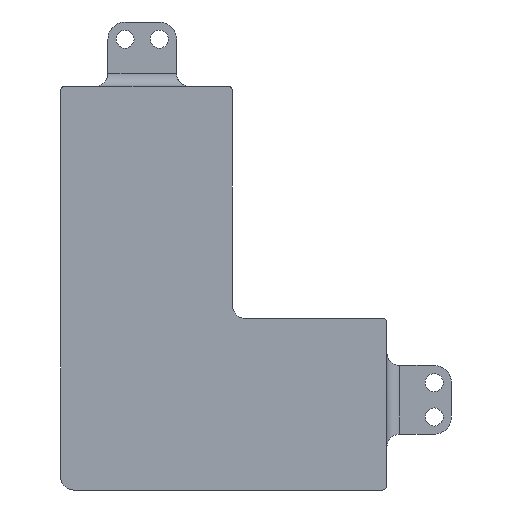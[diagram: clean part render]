
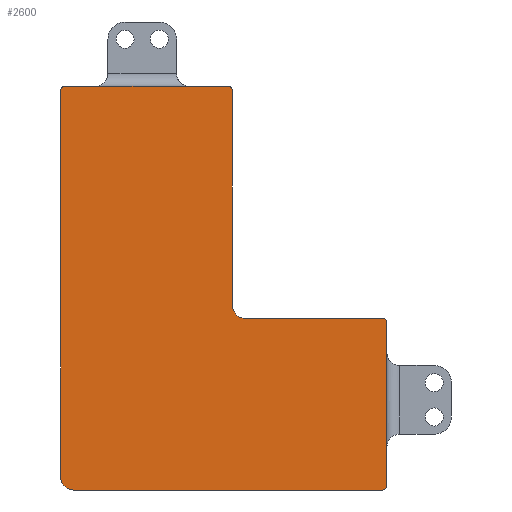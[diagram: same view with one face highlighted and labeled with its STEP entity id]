
A CAD part, front view. The second image highlights one B-rep face of the part: STEP entity #2600.
In plain terms, the highlighted planar face has unit normal (0, -1, 0).
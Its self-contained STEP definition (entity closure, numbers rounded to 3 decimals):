
#11 = LINE ( 'NONE', #2379, #2736 ) ;
#24 = CIRCLE ( 'NONE', #2229, 3. ) ;
#58 = EDGE_CURVE ( 'NONE', #4518, #4176, #11, .T. ) ;
#101 = CARTESIAN_POINT ( 'NONE',  ( 36., -3., -39. ) ) ;
#103 = DIRECTION ( 'NONE',  ( -1., 0., 0. ) ) ;
#143 = DIRECTION ( 'NONE',  ( 0., 0., 1. ) ) ;
#180 = CARTESIAN_POINT ( 'NONE',  ( -1., -3., 53. ) ) ;
#223 = CARTESIAN_POINT ( 'NONE',  ( 35., -3., -39. ) ) ;
#232 = EDGE_CURVE ( 'NONE', #4902, #4384, #3604, .T. ) ;
#312 = CARTESIAN_POINT ( 'NONE',  ( 3., -3., 3. ) ) ;
#343 = CARTESIAN_POINT ( 'NONE',  ( 0., -3., 0. ) ) ;
#369 = DIRECTION ( 'NONE',  ( 0., 0., 1. ) ) ;
#371 = LINE ( 'NONE', #4173, #2463 ) ;
#414 = DIRECTION ( 'NONE',  ( 0., 0., 1. ) ) ;
#425 = VECTOR ( 'NONE', #3393, 1000. ) ;
#444 = DIRECTION ( 'NONE',  ( 0., 0., 1. ) ) ;
#458 = VERTEX_POINT ( 'NONE', #3647 ) ;
#522 = VECTOR ( 'NONE', #103, 1000. ) ;
#561 = CARTESIAN_POINT ( 'NONE',  ( 0., -3., 54. ) ) ;
#577 = CIRCLE ( 'NONE', #3025, 1. ) ;
#661 = AXIS2_PLACEMENT_3D ( 'NONE', #759, #3753, #369 ) ;
#686 = DIRECTION ( 'NONE',  ( 0., 0., 1. ) ) ;
#709 = LINE ( 'NONE', #2222, #2149 ) ;
#759 = CARTESIAN_POINT ( 'NONE',  ( -39., -3., 53. ) ) ;
#901 = ORIENTED_EDGE ( 'NONE', *, *, #3879, .T. ) ;
#1018 = VERTEX_POINT ( 'NONE', #4890 ) ;
#1126 = CARTESIAN_POINT ( 'NONE',  ( 0., -3., 53. ) ) ;
#1142 = DIRECTION ( 'NONE',  ( 0., 0., 1. ) ) ;
#1201 = DIRECTION ( 'NONE',  ( 0., -1., 0. ) ) ;
#1228 = DIRECTION ( 'NONE',  ( 0., 0., 1. ) ) ;
#1260 = EDGE_CURVE ( 'NONE', #1018, #458, #3259, .T. ) ;
#1297 = CIRCLE ( 'NONE', #661, 1. ) ;
#1343 = ORIENTED_EDGE ( 'NONE', *, *, #1260, .T. ) ;
#1442 = AXIS2_PLACEMENT_3D ( 'NONE', #312, #4475, #3777 ) ;
#1476 = CARTESIAN_POINT ( 'NONE',  ( 0., -3., 3. ) ) ;
#1518 = AXIS2_PLACEMENT_3D ( 'NONE', #343, #1920, #686 ) ;
#1695 = AXIS2_PLACEMENT_3D ( 'NONE', #223, #4728, #3253 ) ;
#1701 = EDGE_LOOP ( 'NONE', ( #1343, #1994, #4732, #3999, #2469, #2963, #4006, #2453, #4600, #3501, #901, #3855 ) ) ;
#1722 = VERTEX_POINT ( 'NONE', #1791 ) ;
#1791 = CARTESIAN_POINT ( 'NONE',  ( -39., -3., 54. ) ) ;
#1920 = DIRECTION ( 'NONE',  ( 0., 1., 0. ) ) ;
#1994 = ORIENTED_EDGE ( 'NONE', *, *, #4864, .T. ) ;
#2149 = VECTOR ( 'NONE', #3833, 1000. ) ;
#2222 = CARTESIAN_POINT ( 'NONE',  ( -40., -3., 54. ) ) ;
#2229 = AXIS2_PLACEMENT_3D ( 'NONE', #2986, #4147, #444 ) ;
#2256 = LINE ( 'NONE', #3766, #425 ) ;
#2300 = EDGE_CURVE ( 'NONE', #4384, #2526, #2256, .T. ) ;
#2338 = CARTESIAN_POINT ( 'NONE',  ( 35., -3., -1. ) ) ;
#2379 = CARTESIAN_POINT ( 'NONE',  ( 0., -3., 0. ) ) ;
#2453 = ORIENTED_EDGE ( 'NONE', *, *, #3145, .T. ) ;
#2463 = VECTOR ( 'NONE', #414, 1000. ) ;
#2469 = ORIENTED_EDGE ( 'NONE', *, *, #2300, .T. ) ;
#2526 = VERTEX_POINT ( 'NONE', #4427 ) ;
#2587 = CARTESIAN_POINT ( 'NONE',  ( -40., -3., 53. ) ) ;
#2600 = ADVANCED_FACE ( 'NONE', ( #3361 ), #3781, .F. ) ;
#2681 = VERTEX_POINT ( 'NONE', #2587 ) ;
#2690 = EDGE_CURVE ( 'NONE', #4688, #4902, #371, .T. ) ;
#2736 = VECTOR ( 'NONE', #1142, 1000. ) ;
#2881 = VECTOR ( 'NONE', #4781, 1000. ) ;
#2963 = ORIENTED_EDGE ( 'NONE', *, *, #3098, .T. ) ;
#2986 = CARTESIAN_POINT ( 'NONE',  ( -37., -3., -37. ) ) ;
#3025 = AXIS2_PLACEMENT_3D ( 'NONE', #180, #1201, #1228 ) ;
#3098 = EDGE_CURVE ( 'NONE', #2526, #4518, #4770, .T. ) ;
#3132 = AXIS2_PLACEMENT_3D ( 'NONE', #2338, #4598, #143 ) ;
#3145 = EDGE_CURVE ( 'NONE', #4176, #3340, #577, .T. ) ;
#3183 = LINE ( 'NONE', #561, #522 ) ;
#3235 = CARTESIAN_POINT ( 'NONE',  ( -40., -3., -40. ) ) ;
#3253 = DIRECTION ( 'NONE',  ( 0., 0., 1. ) ) ;
#3259 = LINE ( 'NONE', #3235, #2881 ) ;
#3276 = CARTESIAN_POINT ( 'NONE',  ( 35., -3., 0. ) ) ;
#3340 = VERTEX_POINT ( 'NONE', #4410 ) ;
#3361 = FACE_OUTER_BOUND ( 'NONE', #1701, .T. ) ;
#3362 = CARTESIAN_POINT ( 'NONE',  ( -40., -3., -37. ) ) ;
#3393 = DIRECTION ( 'NONE',  ( -1., 0., 0. ) ) ;
#3501 = ORIENTED_EDGE ( 'NONE', *, *, #4577, .T. ) ;
#3604 = CIRCLE ( 'NONE', #3132, 1. ) ;
#3647 = CARTESIAN_POINT ( 'NONE',  ( 35., -3., -40. ) ) ;
#3753 = DIRECTION ( 'NONE',  ( 0., -1., 0. ) ) ;
#3766 = CARTESIAN_POINT ( 'NONE',  ( 36., -3., 0. ) ) ;
#3777 = DIRECTION ( 'NONE',  ( 0., 0., 1. ) ) ;
#3781 = PLANE ( 'NONE',  #1518 ) ;
#3789 = EDGE_CURVE ( 'NONE', #3869, #1018, #24, .T. ) ;
#3833 = DIRECTION ( 'NONE',  ( 0., 0., -1. ) ) ;
#3835 = CIRCLE ( 'NONE', #1695, 1. ) ;
#3855 = ORIENTED_EDGE ( 'NONE', *, *, #3789, .T. ) ;
#3869 = VERTEX_POINT ( 'NONE', #3362 ) ;
#3879 = EDGE_CURVE ( 'NONE', #2681, #3869, #709, .T. ) ;
#3976 = EDGE_CURVE ( 'NONE', #3340, #1722, #3183, .T. ) ;
#3999 = ORIENTED_EDGE ( 'NONE', *, *, #232, .T. ) ;
#4006 = ORIENTED_EDGE ( 'NONE', *, *, #58, .T. ) ;
#4147 = DIRECTION ( 'NONE',  ( 0., -1., 0. ) ) ;
#4173 = CARTESIAN_POINT ( 'NONE',  ( 36., -3., -40. ) ) ;
#4176 = VERTEX_POINT ( 'NONE', #1126 ) ;
#4367 = CARTESIAN_POINT ( 'NONE',  ( 36., -3., -1. ) ) ;
#4384 = VERTEX_POINT ( 'NONE', #3276 ) ;
#4410 = CARTESIAN_POINT ( 'NONE',  ( -1., -3., 54. ) ) ;
#4427 = CARTESIAN_POINT ( 'NONE',  ( 3., -3., 0. ) ) ;
#4475 = DIRECTION ( 'NONE',  ( 0., 1., 0. ) ) ;
#4518 = VERTEX_POINT ( 'NONE', #1476 ) ;
#4577 = EDGE_CURVE ( 'NONE', #1722, #2681, #1297, .T. ) ;
#4598 = DIRECTION ( 'NONE',  ( 0., -1., 0. ) ) ;
#4600 = ORIENTED_EDGE ( 'NONE', *, *, #3976, .T. ) ;
#4688 = VERTEX_POINT ( 'NONE', #101 ) ;
#4728 = DIRECTION ( 'NONE',  ( 0., -1., 0. ) ) ;
#4732 = ORIENTED_EDGE ( 'NONE', *, *, #2690, .T. ) ;
#4770 = CIRCLE ( 'NONE', #1442, 3. ) ;
#4781 = DIRECTION ( 'NONE',  ( 1., 0., 0. ) ) ;
#4864 = EDGE_CURVE ( 'NONE', #458, #4688, #3835, .T. ) ;
#4890 = CARTESIAN_POINT ( 'NONE',  ( -37., -3., -40. ) ) ;
#4902 = VERTEX_POINT ( 'NONE', #4367 ) ;
